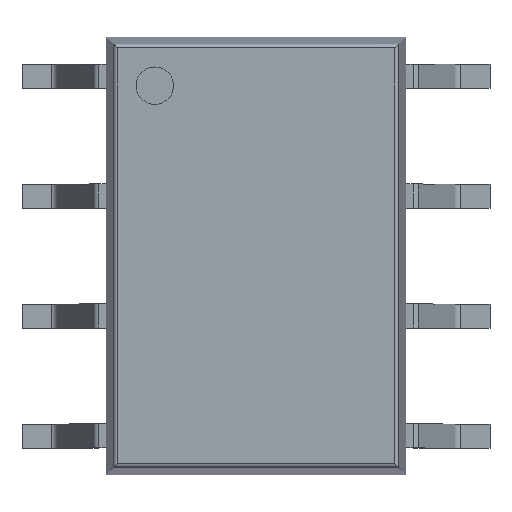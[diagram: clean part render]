
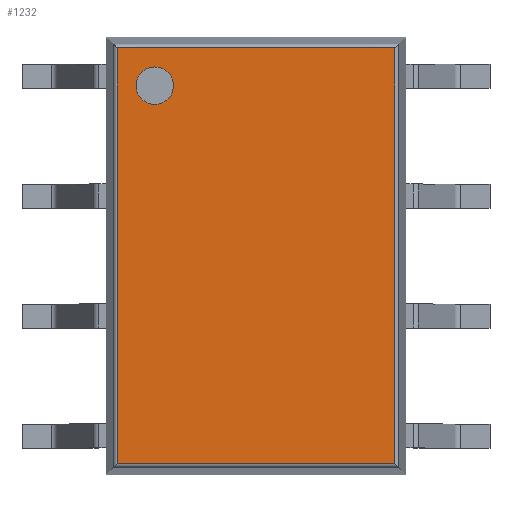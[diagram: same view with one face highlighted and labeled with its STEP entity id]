
A CAD part, top view. The second image highlights one B-rep face of the part: STEP entity #1232.
In plain terms, the highlighted planar face has unit normal (0, 0, 1).
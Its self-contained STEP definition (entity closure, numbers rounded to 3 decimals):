
#829 = CYLINDRICAL_SURFACE('',#830,0.08);
#830 = AXIS2_PLACEMENT_3D('',#831,#832,#833);
#831 = CARTESIAN_POINT('',(-2.941,-4.476,4.86));
#832 = DIRECTION('',(0.,1.,0.));
#833 = DIRECTION('',(-0.998,0.,0.066));
#971 = CYLINDRICAL_SURFACE('',#972,0.08);
#972 = AXIS2_PLACEMENT_3D('',#973,#974,#975);
#973 = CARTESIAN_POINT('',(-3.016,-4.401,4.86));
#974 = DIRECTION('',(1.,0.,0.));
#975 = DIRECTION('',(0.,-0.998,0.066));
#987 = VERTEX_POINT('',#988);
#988 = CARTESIAN_POINT('',(-2.941,-4.401,4.94));
#1022 = EDGE_CURVE('',#987,#1023,#1025,.T.);
#1023 = VERTEX_POINT('',#1024);
#1024 = CARTESIAN_POINT('',(-2.941,4.401,4.94));
#1025 = SURFACE_CURVE('',#1026,(#1030,#1037),.PCURVE_S1.);
#1026 = LINE('',#1027,#1028);
#1027 = CARTESIAN_POINT('',(-2.941,-4.476,4.94));
#1028 = VECTOR('',#1029,1.);
#1029 = DIRECTION('',(0.,1.,0.));
#1030 = PCURVE('',#829,#1031);
#1031 = DEFINITIONAL_REPRESENTATION('',(#1032),#1036);
#1032 = LINE('',#1033,#1034);
#1033 = CARTESIAN_POINT('',(1.504,0.));
#1034 = VECTOR('',#1035,1.);
#1035 = DIRECTION('',(0.,1.));
#1036 = ( GEOMETRIC_REPRESENTATION_CONTEXT(2) 
PARAMETRIC_REPRESENTATION_CONTEXT() REPRESENTATION_CONTEXT('2D SPACE',''
  ) );
#1037 = PCURVE('',#1038,#1043);
#1038 = PLANE('',#1039);
#1039 = AXIS2_PLACEMENT_3D('',#1040,#1041,#1042);
#1040 = CARTESIAN_POINT('',(-3.175,-4.635,4.94));
#1041 = DIRECTION('',(0.,0.,1.));
#1042 = DIRECTION('',(1.,0.,0.));
#1043 = DEFINITIONAL_REPRESENTATION('',(#1044),#1048);
#1044 = LINE('',#1045,#1046);
#1045 = CARTESIAN_POINT('',(0.234,0.159));
#1046 = VECTOR('',#1047,1.);
#1047 = DIRECTION('',(0.,1.));
#1048 = ( GEOMETRIC_REPRESENTATION_CONTEXT(2) 
PARAMETRIC_REPRESENTATION_CONTEXT() REPRESENTATION_CONTEXT('2D SPACE',''
  ) );
#1071 = CYLINDRICAL_SURFACE('',#1072,0.08);
#1072 = AXIS2_PLACEMENT_3D('',#1073,#1074,#1075);
#1073 = CARTESIAN_POINT('',(-3.016,4.401,4.86));
#1074 = DIRECTION('',(1.,0.,0.));
#1075 = DIRECTION('',(0.,0.,1.));
#1159 = CYLINDRICAL_SURFACE('',#1160,0.08);
#1160 = AXIS2_PLACEMENT_3D('',#1161,#1162,#1163);
#1161 = CARTESIAN_POINT('',(2.941,-4.476,4.86));
#1162 = DIRECTION('',(0.,1.,0.));
#1163 = DIRECTION('',(0.,0.,1.));
#1175 = EDGE_CURVE('',#987,#1176,#1178,.T.);
#1176 = VERTEX_POINT('',#1177);
#1177 = CARTESIAN_POINT('',(2.941,-4.401,4.94));
#1178 = SURFACE_CURVE('',#1179,(#1183,#1190),.PCURVE_S1.);
#1179 = LINE('',#1180,#1181);
#1180 = CARTESIAN_POINT('',(-3.016,-4.401,4.94));
#1181 = VECTOR('',#1182,1.);
#1182 = DIRECTION('',(1.,0.,0.));
#1183 = PCURVE('',#971,#1184);
#1184 = DEFINITIONAL_REPRESENTATION('',(#1185),#1189);
#1185 = LINE('',#1186,#1187);
#1186 = CARTESIAN_POINT('',(-1.504,0.));
#1187 = VECTOR('',#1188,1.);
#1188 = DIRECTION('',(-0.,1.));
#1189 = ( GEOMETRIC_REPRESENTATION_CONTEXT(2) 
PARAMETRIC_REPRESENTATION_CONTEXT() REPRESENTATION_CONTEXT('2D SPACE',''
  ) );
#1190 = PCURVE('',#1038,#1191);
#1191 = DEFINITIONAL_REPRESENTATION('',(#1192),#1196);
#1192 = LINE('',#1193,#1194);
#1193 = CARTESIAN_POINT('',(0.159,0.234));
#1194 = VECTOR('',#1195,1.);
#1195 = DIRECTION('',(1.,0.));
#1196 = ( GEOMETRIC_REPRESENTATION_CONTEXT(2) 
PARAMETRIC_REPRESENTATION_CONTEXT() REPRESENTATION_CONTEXT('2D SPACE',''
  ) );
#1232 = ADVANCED_FACE('',(#1233,#1281),#1038,.T.);
#1233 = FACE_BOUND('',#1234,.T.);
#1234 = EDGE_LOOP('',(#1235,#1236,#1237,#1260));
#1235 = ORIENTED_EDGE('',*,*,#1022,.F.);
#1236 = ORIENTED_EDGE('',*,*,#1175,.T.);
#1237 = ORIENTED_EDGE('',*,*,#1238,.T.);
#1238 = EDGE_CURVE('',#1176,#1239,#1241,.T.);
#1239 = VERTEX_POINT('',#1240);
#1240 = CARTESIAN_POINT('',(2.941,4.401,4.94));
#1241 = SURFACE_CURVE('',#1242,(#1246,#1253),.PCURVE_S1.);
#1242 = LINE('',#1243,#1244);
#1243 = CARTESIAN_POINT('',(2.941,-4.476,4.94));
#1244 = VECTOR('',#1245,1.);
#1245 = DIRECTION('',(0.,1.,0.));
#1246 = PCURVE('',#1038,#1247);
#1247 = DEFINITIONAL_REPRESENTATION('',(#1248),#1252);
#1248 = LINE('',#1249,#1250);
#1249 = CARTESIAN_POINT('',(6.116,0.159));
#1250 = VECTOR('',#1251,1.);
#1251 = DIRECTION('',(0.,1.));
#1252 = ( GEOMETRIC_REPRESENTATION_CONTEXT(2) 
PARAMETRIC_REPRESENTATION_CONTEXT() REPRESENTATION_CONTEXT('2D SPACE',''
  ) );
#1253 = PCURVE('',#1159,#1254);
#1254 = DEFINITIONAL_REPRESENTATION('',(#1255),#1259);
#1255 = LINE('',#1256,#1257);
#1256 = CARTESIAN_POINT('',(0.,0.));
#1257 = VECTOR('',#1258,1.);
#1258 = DIRECTION('',(0.,1.));
#1259 = ( GEOMETRIC_REPRESENTATION_CONTEXT(2) 
PARAMETRIC_REPRESENTATION_CONTEXT() REPRESENTATION_CONTEXT('2D SPACE',''
  ) );
#1260 = ORIENTED_EDGE('',*,*,#1261,.F.);
#1261 = EDGE_CURVE('',#1023,#1239,#1262,.T.);
#1262 = SURFACE_CURVE('',#1263,(#1267,#1274),.PCURVE_S1.);
#1263 = LINE('',#1264,#1265);
#1264 = CARTESIAN_POINT('',(-3.016,4.401,4.94));
#1265 = VECTOR('',#1266,1.);
#1266 = DIRECTION('',(1.,0.,0.));
#1267 = PCURVE('',#1038,#1268);
#1268 = DEFINITIONAL_REPRESENTATION('',(#1269),#1273);
#1269 = LINE('',#1270,#1271);
#1270 = CARTESIAN_POINT('',(0.159,9.036));
#1271 = VECTOR('',#1272,1.);
#1272 = DIRECTION('',(1.,0.));
#1273 = ( GEOMETRIC_REPRESENTATION_CONTEXT(2) 
PARAMETRIC_REPRESENTATION_CONTEXT() REPRESENTATION_CONTEXT('2D SPACE',''
  ) );
#1274 = PCURVE('',#1071,#1275);
#1275 = DEFINITIONAL_REPRESENTATION('',(#1276),#1280);
#1276 = LINE('',#1277,#1278);
#1277 = CARTESIAN_POINT('',(-0.,0.));
#1278 = VECTOR('',#1279,1.);
#1279 = DIRECTION('',(-0.,1.));
#1280 = ( GEOMETRIC_REPRESENTATION_CONTEXT(2) 
PARAMETRIC_REPRESENTATION_CONTEXT() REPRESENTATION_CONTEXT('2D SPACE',''
  ) );
#1281 = FACE_BOUND('',#1282,.T.);
#1282 = EDGE_LOOP('',(#1283));
#1283 = ORIENTED_EDGE('',*,*,#1284,.F.);
#1284 = EDGE_CURVE('',#1285,#1285,#1287,.T.);
#1285 = VERTEX_POINT('',#1286);
#1286 = CARTESIAN_POINT('',(-1.746,3.603,4.94));
#1287 = SURFACE_CURVE('',#1288,(#1293,#1300),.PCURVE_S1.);
#1288 = CIRCLE('',#1289,0.397);
#1289 = AXIS2_PLACEMENT_3D('',#1290,#1291,#1292);
#1290 = CARTESIAN_POINT('',(-2.143,3.603,4.94));
#1291 = DIRECTION('',(0.,0.,1.));
#1292 = DIRECTION('',(1.,0.,0.));
#1293 = PCURVE('',#1038,#1294);
#1294 = DEFINITIONAL_REPRESENTATION('',(#1295),#1299);
#1295 = CIRCLE('',#1296,0.397);
#1296 = AXIS2_PLACEMENT_2D('',#1297,#1298);
#1297 = CARTESIAN_POINT('',(1.033,8.238));
#1298 = DIRECTION('',(1.,0.));
#1299 = ( GEOMETRIC_REPRESENTATION_CONTEXT(2) 
PARAMETRIC_REPRESENTATION_CONTEXT() REPRESENTATION_CONTEXT('2D SPACE',''
  ) );
#1300 = PCURVE('',#1301,#1306);
#1301 = CYLINDRICAL_SURFACE('',#1302,0.397);
#1302 = AXIS2_PLACEMENT_3D('',#1303,#1304,#1305);
#1303 = CARTESIAN_POINT('',(-2.143,3.603,4.446));
#1304 = DIRECTION('',(0.,0.,1.));
#1305 = DIRECTION('',(1.,0.,0.));
#1306 = DEFINITIONAL_REPRESENTATION('',(#1307),#1310);
#1307 = B_SPLINE_CURVE_WITH_KNOTS('',1,(#1308,#1309),.UNSPECIFIED.,.F.,
  .F.,(2,2),(0.,6.283),.PIECEWISE_BEZIER_KNOTS.);
#1308 = CARTESIAN_POINT('',(0.,0.494));
#1309 = CARTESIAN_POINT('',(6.283,0.494));
#1310 = ( GEOMETRIC_REPRESENTATION_CONTEXT(2) 
PARAMETRIC_REPRESENTATION_CONTEXT() REPRESENTATION_CONTEXT('2D SPACE',''
  ) );
